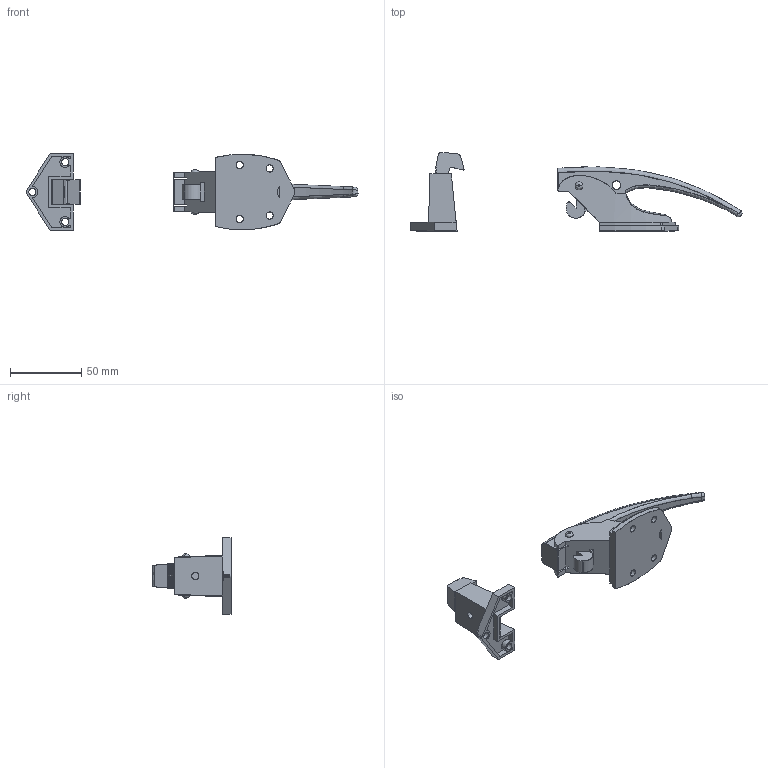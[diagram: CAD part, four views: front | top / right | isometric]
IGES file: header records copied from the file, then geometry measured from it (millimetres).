
Start section: SolidWorks IGES file using analytic representation for surfaces
Global section: file name: D:\尚坤工业图纸\SK1--门锁系列\SK1-075\SK1-075.IGS; native system: SolidWorks 2015; preprocessor: SolidWorks 2015; author: admin; date: 181101.103948; units: millimetre
Bounding box: 233 x 54.75 x 54 mm (x, y, z)
Surface area: 29800.2 mm2 (no closed solid volume)
Topology: 0 solids, 0 shells, 394 faces, 4236 edges, 4235 vertices
Faces by surface type: bspline 286, revolution 108
